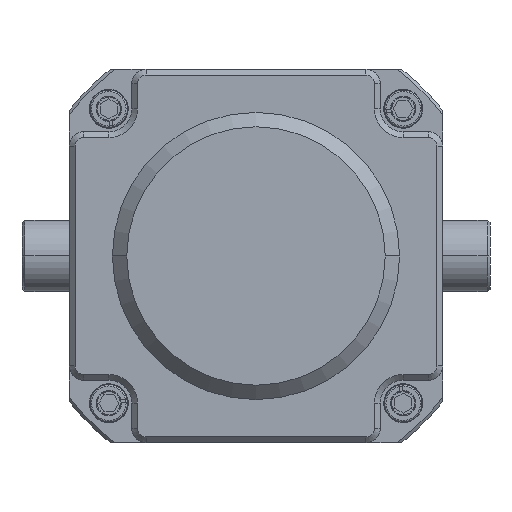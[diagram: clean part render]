
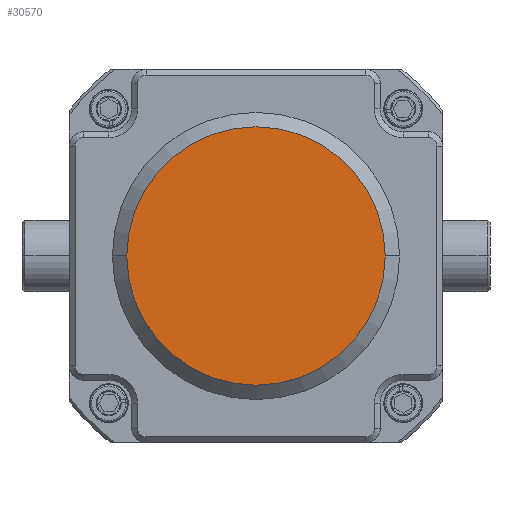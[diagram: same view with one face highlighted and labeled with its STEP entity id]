
A CAD part, front view. The second image highlights one B-rep face of the part: STEP entity #30570.
In plain terms, the highlighted planar face has unit normal (0, -1, 0) as drawn and (0, 1, 0) by its records, which use the part's own axes.
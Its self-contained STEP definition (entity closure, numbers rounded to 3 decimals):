
#28491=CARTESIAN_POINT('',(0.,166.,0.));
#28492=DIRECTION('',(0.,1.,0.));
#28493=DIRECTION('',(-1.,0.,0.));
#28494=AXIS2_PLACEMENT_3D('',#28491,#28492,#28493);
#28496=CARTESIAN_POINT('',(0.,166.,0.));
#28497=DIRECTION('',(0.,1.,0.));
#28498=DIRECTION('',(1.,0.,0.));
#28499=AXIS2_PLACEMENT_3D('',#28496,#28497,#28498);
#29116=CARTESIAN_POINT('',(-45.,166.,0.));
#29117=CARTESIAN_POINT('',(45.,166.,0.));
#29118=VERTEX_POINT('',#29116);
#29119=VERTEX_POINT('',#29117);
#30560=CARTESIAN_POINT('',(0.,166.,0.));
#30561=DIRECTION('',(0.,1.,0.));
#30562=DIRECTION('',(1.,0.,0.));
#30563=AXIS2_PLACEMENT_3D('',#30560,#30561,#30562);
#30564=PLANE('',#30563);
#30566=ORIENTED_EDGE('',*,*,#30565,.F.);
#30567=ORIENTED_EDGE('',*,*,#30550,.F.);
#30568=EDGE_LOOP('',(#30566,#30567));
#30569=FACE_OUTER_BOUND('',#30568,.F.);
#30570=ADVANCED_FACE('',(#30569),#30564,.T.);
#28495=CIRCLE('',#28494,45.);
#28500=CIRCLE('',#28499,45.);
#30550=EDGE_CURVE('',#29119,#29118,#28500,.T.);
#30565=EDGE_CURVE('',#29118,#29119,#28495,.T.);
